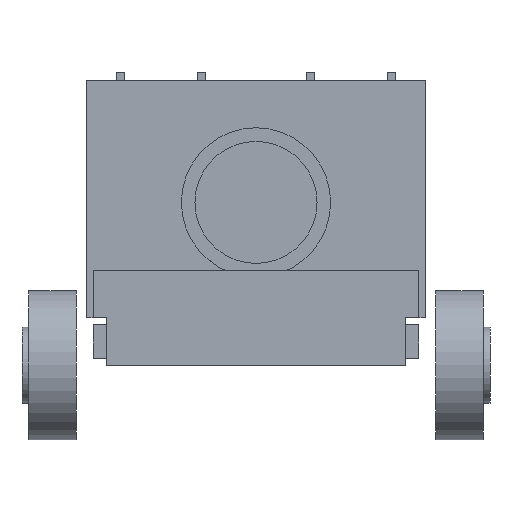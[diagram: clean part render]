
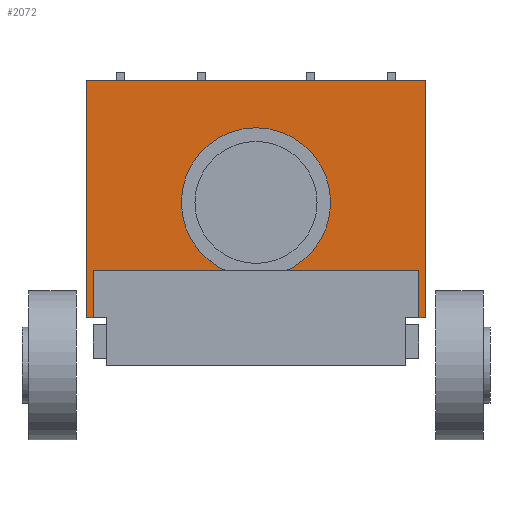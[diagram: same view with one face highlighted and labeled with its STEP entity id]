
A CAD part, left-side view. The second image highlights one B-rep face of the part: STEP entity #2072.
In plain terms, the highlighted planar face has unit normal (-1, 0, 0).
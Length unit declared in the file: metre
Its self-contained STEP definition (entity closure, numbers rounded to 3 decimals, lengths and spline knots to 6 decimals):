
#15=FACE_BOUND('',#367,.T.);
#81=PLANE('',#2271);
#218=FACE_OUTER_BOUND('',#366,.T.);
#366=EDGE_LOOP('',(#1542,#1543,#1544,#1545,#1546,#1547,#1548,#1549));
#367=EDGE_LOOP('',(#1550));
#519=LINE('',#3103,#767);
#520=LINE('',#3105,#768);
#521=LINE('',#3107,#769);
#522=LINE('',#3109,#770);
#523=LINE('',#3111,#771);
#524=LINE('',#3113,#772);
#525=LINE('',#3115,#773);
#526=LINE('',#3116,#774);
#767=VECTOR('',#2506,0.01);
#768=VECTOR('',#2507,0.01);
#769=VECTOR('',#2508,0.01);
#770=VECTOR('',#2509,0.01);
#771=VECTOR('',#2510,0.01);
#772=VECTOR('',#2511,0.01);
#773=VECTOR('',#2512,0.01);
#774=VECTOR('',#2513,0.01);
#1000=CIRCLE('',#2261,0.55);
#1030=VERTEX_POINT('',#3053);
#1047=VERTEX_POINT('',#3101);
#1048=VERTEX_POINT('',#3102);
#1049=VERTEX_POINT('',#3104);
#1050=VERTEX_POINT('',#3106);
#1051=VERTEX_POINT('',#3108);
#1052=VERTEX_POINT('',#3110);
#1053=VERTEX_POINT('',#3112);
#1054=VERTEX_POINT('',#3114);
#1219=EDGE_CURVE('',#1030,#1030,#1000,.T.);
#1241=EDGE_CURVE('',#1047,#1048,#519,.T.);
#1242=EDGE_CURVE('',#1047,#1049,#520,.T.);
#1243=EDGE_CURVE('',#1049,#1050,#521,.T.);
#1244=EDGE_CURVE('',#1051,#1050,#522,.T.);
#1245=EDGE_CURVE('',#1052,#1051,#523,.T.);
#1246=EDGE_CURVE('',#1052,#1053,#524,.T.);
#1247=EDGE_CURVE('',#1053,#1054,#525,.T.);
#1248=EDGE_CURVE('',#1048,#1054,#526,.T.);
#1542=ORIENTED_EDGE('',*,*,#1241,.F.);
#1543=ORIENTED_EDGE('',*,*,#1242,.T.);
#1544=ORIENTED_EDGE('',*,*,#1243,.T.);
#1545=ORIENTED_EDGE('',*,*,#1244,.F.);
#1546=ORIENTED_EDGE('',*,*,#1245,.F.);
#1547=ORIENTED_EDGE('',*,*,#1246,.T.);
#1548=ORIENTED_EDGE('',*,*,#1247,.T.);
#1549=ORIENTED_EDGE('',*,*,#1248,.F.);
#1550=ORIENTED_EDGE('',*,*,#1219,.T.);
#2072=ADVANCED_FACE('',(#218,#15),#81,.T.);
#2261=AXIS2_PLACEMENT_3D('',#3055,#2465,#2466);
#2271=AXIS2_PLACEMENT_3D('',#3100,#2504,#2505);
#2465=DIRECTION('center_axis',(1.,0.,0.));
#2466=DIRECTION('ref_axis',(0.,-1.,0.));
#2504=DIRECTION('center_axis',(-1.,0.,0.));
#2505=DIRECTION('ref_axis',(0.,-1.,0.));
#2506=DIRECTION('',(0.,0.,1.));
#2507=DIRECTION('',(0.,-1.,0.));
#2508=DIRECTION('',(0.,0.,1.));
#2509=DIRECTION('',(0.,-1.,0.));
#2510=DIRECTION('',(0.,0.,1.));
#2511=DIRECTION('',(0.,-1.,0.));
#2512=DIRECTION('',(0.,0.,1.));
#2513=DIRECTION('',(0.,1.,0.));
#3053=CARTESIAN_POINT('',(0.,0.55,1.75));
#3055=CARTESIAN_POINT('Origin',(0.,0.,1.75));
#3100=CARTESIAN_POINT('Origin',(0.,1.25,0.9));
#3101=CARTESIAN_POINT('',(0.,-1.2,0.9));
#3102=CARTESIAN_POINT('',(0.,-1.2,1.));
#3103=CARTESIAN_POINT('',(0.,-1.2,0.9));
#3104=CARTESIAN_POINT('',(0.,-1.25,0.9));
#3105=CARTESIAN_POINT('',(0.,1.25,0.9));
#3106=CARTESIAN_POINT('',(0.,-1.25,2.65));
#3107=CARTESIAN_POINT('',(0.,-1.25,0.9));
#3108=CARTESIAN_POINT('',(0.,1.25,2.65));
#3109=CARTESIAN_POINT('',(0.,1.25,2.65));
#3110=CARTESIAN_POINT('',(0.,1.25,0.9));
#3111=CARTESIAN_POINT('',(0.,1.25,0.9));
#3112=CARTESIAN_POINT('',(0.,1.2,0.9));
#3113=CARTESIAN_POINT('',(0.,1.25,0.9));
#3114=CARTESIAN_POINT('',(0.,1.2,1.));
#3115=CARTESIAN_POINT('',(0.,1.2,0.9));
#3116=CARTESIAN_POINT('',(0.,-1.2,1.));
